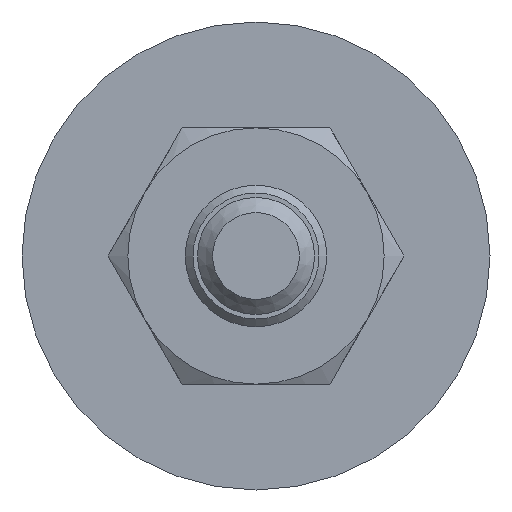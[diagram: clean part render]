
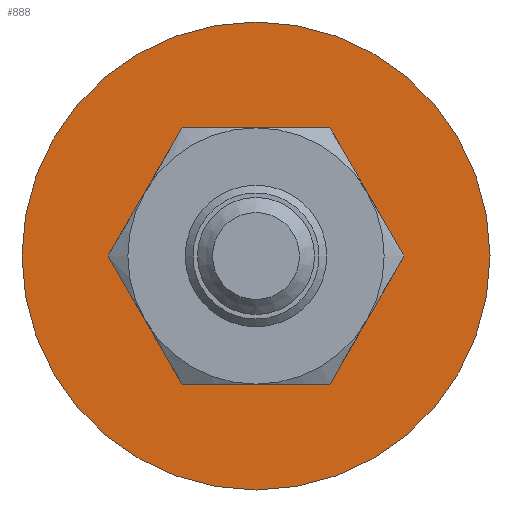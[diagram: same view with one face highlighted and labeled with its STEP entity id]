
A CAD part, front view. The second image highlights one B-rep face of the part: STEP entity #888.
In plain terms, the highlighted planar face has unit normal (0, -1, 0).
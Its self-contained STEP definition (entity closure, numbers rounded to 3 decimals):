
#25 = ORIENTED_EDGE ( 'NONE', *, *, #552, .F. ) ;
#37 = CARTESIAN_POINT ( 'NONE',  ( 6.64, 159., 11.5 ) ) ;
#42 = EDGE_CURVE ( 'NONE', #754, #191, #545, .T. ) ;
#57 = CARTESIAN_POINT ( 'NONE',  ( -6.64, 159., -11.5 ) ) ;
#63 = CARTESIAN_POINT ( 'NONE',  ( 0., 159., 0. ) ) ;
#117 = DIRECTION ( 'NONE',  ( 1., 0., 0. ) ) ;
#120 = CIRCLE ( 'NONE', #629, 11.5 ) ;
#191 = VERTEX_POINT ( 'NONE', #207 ) ;
#196 = EDGE_LOOP ( 'NONE', ( #25, #360, #852, #230 ) ) ;
#207 = CARTESIAN_POINT ( 'NONE',  ( -0.065, 159., 11.5 ) ) ;
#230 = ORIENTED_EDGE ( 'NONE', *, *, #828, .F. ) ;
#260 = DIRECTION ( 'NONE',  ( 0., 0., -1. ) ) ;
#301 = CARTESIAN_POINT ( 'NONE',  ( 0.065, 159., -11.5 ) ) ;
#309 = AXIS2_PLACEMENT_3D ( 'NONE', #63, #617, #532 ) ;
#332 = EDGE_LOOP ( 'NONE', ( #594 ) ) ;
#334 = CARTESIAN_POINT ( 'NONE',  ( 0., 159., 0. ) ) ;
#341 = AXIS2_PLACEMENT_3D ( 'NONE', #874, #476, #679 ) ;
#360 = ORIENTED_EDGE ( 'NONE', *, *, #42, .F. ) ;
#382 = CIRCLE ( 'NONE', #309, 11.5 ) ;
#398 = CIRCLE ( 'NONE', #341, 21. ) ;
#407 = LINE ( 'NONE', #57, #607 ) ;
#417 = AXIS2_PLACEMENT_3D ( 'NONE', #334, #872, #667 ) ;
#439 = VERTEX_POINT ( 'NONE', #301 ) ;
#448 = VERTEX_POINT ( 'NONE', #722 ) ;
#456 = VERTEX_POINT ( 'NONE', #461 ) ;
#461 = CARTESIAN_POINT ( 'NONE',  ( 0., 159., 21. ) ) ;
#464 = EDGE_CURVE ( 'NONE', #456, #456, #398, .T. ) ;
#467 = CARTESIAN_POINT ( 'NONE',  ( 0., 159., 0. ) ) ;
#476 = DIRECTION ( 'NONE',  ( 0., 1., 0. ) ) ;
#484 = VECTOR ( 'NONE', #660, 1000. ) ;
#500 = EDGE_CURVE ( 'NONE', #439, #754, #382, .T. ) ;
#530 = PLANE ( 'NONE',  #417 ) ;
#532 = DIRECTION ( 'NONE',  ( 0., 0., -1. ) ) ;
#545 = LINE ( 'NONE', #37, #484 ) ;
#552 = EDGE_CURVE ( 'NONE', #191, #448, #120, .T. ) ;
#590 = CARTESIAN_POINT ( 'NONE',  ( 0.065, 159., 11.5 ) ) ;
#594 = ORIENTED_EDGE ( 'NONE', *, *, #464, .F. ) ;
#607 = VECTOR ( 'NONE', #117, 1000. ) ;
#608 = DIRECTION ( 'NONE',  ( 0., -1., 0. ) ) ;
#611 = FACE_OUTER_BOUND ( 'NONE', #332, .T. ) ;
#616 = FACE_BOUND ( 'NONE', #196, .T. ) ;
#617 = DIRECTION ( 'NONE',  ( 0., -1., 0. ) ) ;
#629 = AXIS2_PLACEMENT_3D ( 'NONE', #467, #608, #260 ) ;
#660 = DIRECTION ( 'NONE',  ( -1., 0., 0. ) ) ;
#667 = DIRECTION ( 'NONE',  ( 0., 0., 1. ) ) ;
#679 = DIRECTION ( 'NONE',  ( 0., 0., 1. ) ) ;
#722 = CARTESIAN_POINT ( 'NONE',  ( -0.065, 159., -11.5 ) ) ;
#754 = VERTEX_POINT ( 'NONE', #590 ) ;
#828 = EDGE_CURVE ( 'NONE', #448, #439, #407, .T. ) ;
#852 = ORIENTED_EDGE ( 'NONE', *, *, #500, .F. ) ;
#872 = DIRECTION ( 'NONE',  ( 0., 1., 0. ) ) ;
#874 = CARTESIAN_POINT ( 'NONE',  ( 0., 159., 0. ) ) ;
#888 = ADVANCED_FACE ( 'NONE', ( #611, #616 ), #530, .F. ) ;
